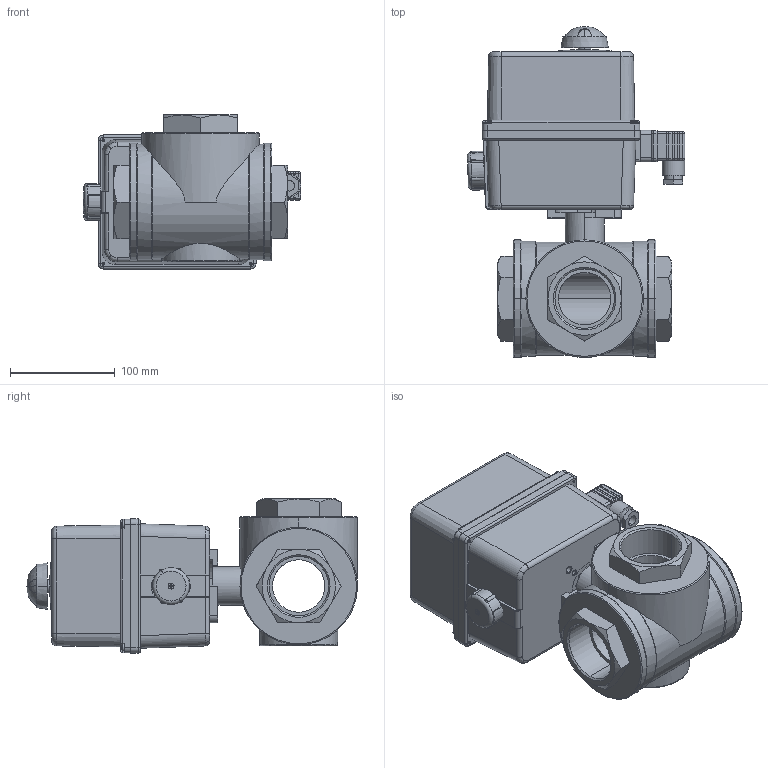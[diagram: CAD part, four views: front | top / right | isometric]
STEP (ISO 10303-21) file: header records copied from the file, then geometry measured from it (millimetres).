
FILE_DESCRIPTION (( 'STEP AP214' ), '1' );
FILE_NAME ('A35 DN50 + ER35_60_100.STEP', '2012-04-20T13:46:27', ( '' ), ( '' ), 'SwSTEP 2.0', 'SolidWorks 2011', '' );
FILE_SCHEMA (( 'AUTOMOTIVE_DESIGN' ));
Length unit declared in the file: millimetre
Products named in the file (17): ER10-20-35 Indicator; Warteldoorvoer M20; Connector ECD.1; Moer voor Connector 2; Bout M3x30; ER10-20-35 Connector 2; ER10-20-35 Pakking; ER10-20-35 Connector 1; ER35-60-100 Knop 2 - Rond; Cross FH Tapping 7976_DIN_Tapping screw DIN 7982-ST2.9x19-C-H-N; ER35-60-100 Knop 1 - Declutch; Sheet Metal Screws_DIN_Tapping screw DIN 7049-ST3.5x16-C-H-N; ER35-60-100 Afdekkap; ER35-60-100 Aandrijving; Ballvalve A35-DN50 G2; A35 DN50 + ER35_60_100; ER35-60-100
Assembly tree (22 placements, depth 4):
  A35 DN50 + ER35_60_100
    ER35-60-100
      Sheet Metal Screws_DIN_Tapping screw DIN 7049-ST3.5x16-C-H-N  x4
      ER35-60-100 Aandrijving
      ER10-20-35 Indicator  x4
      ER35-60-100 Knop 1 - Declutch
      Warteldoorvoer M20
      ER35-60-100 Afdekkap
      Cross FH Tapping 7976_DIN_Tapping screw DIN 7982-ST2.9x19-C-H-N
      Connector ECD.1
        Moer voor Connector 2
        ER10-20-35 Pakking
        Bout M3x30
        ER10-20-35 Connector 2
        ER10-20-35 Connector 1
      ER35-60-100 Knop 2 - Rond
    Ballvalve A35-DN50 G2
Bounding box: 207.09 x 315.5 x 146.9 mm (x, y, z)
Volume: 3785852.3 mm3; surface area: 325610.5 mm2
Topology: 20 solids, 20 shells, 944 faces, 2381 edges, 1506 vertices
Faces by surface type: plane 428, cylinder 333, cone 92, torus 55, bspline 24, sphere 12
Entity records: 27165 total; most frequent: CARTESIAN_POINT 5686, DIRECTION 4321, ORIENTED_EDGE 4040, EDGE_CURVE 2020, AXIS2_PLACEMENT_3D 1614, VERTEX_POINT 1293, VECTOR 1093, LINE 1093
